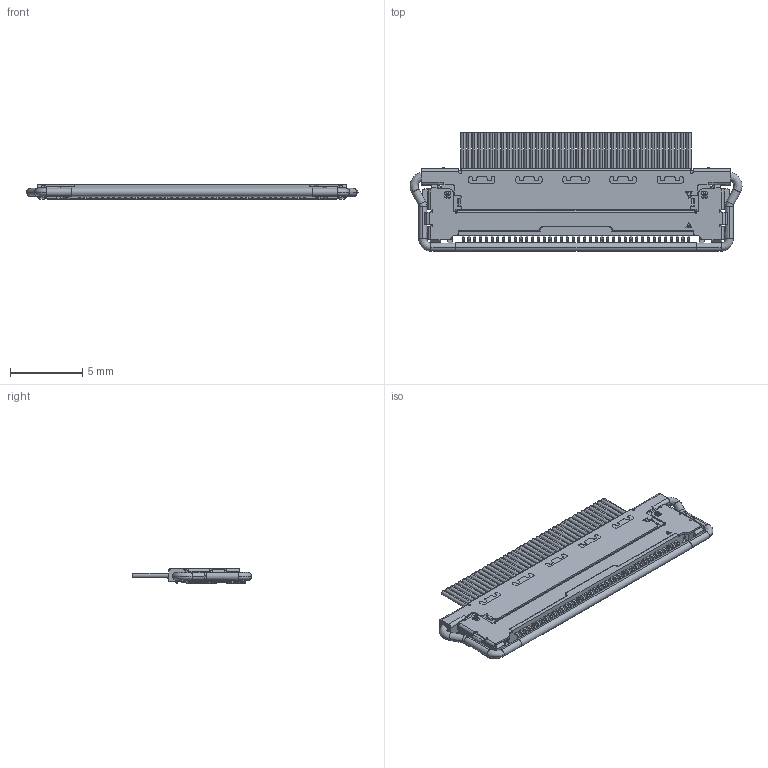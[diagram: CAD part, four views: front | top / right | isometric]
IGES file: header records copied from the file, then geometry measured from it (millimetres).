
Start section: SolidWorks IGES file using analytic representation for surfaces
Global section: file name: C:\Users\04446\Desktop\20633-x40T-01S+20525-x40E-02C MATING IGES R3R4R1R7 ALL.IGS; native system: SolidWorks 2012; preprocessor: SolidWorks 2012; author: 04446; date: 150402.231047; units: millimetre
Bounding box: 22.95 x 8.21 x 1 mm (x, y, z)
Surface area: 533.3 mm2 (no closed solid volume)
Topology: 0 solids, 0 shells, 1728 faces, 12921 edges, 12905 vertices
Faces by surface type: bspline 1115, revolution 613
